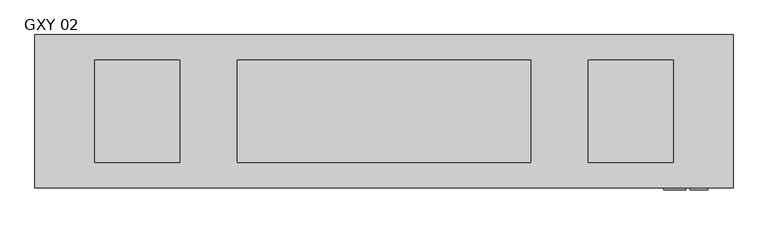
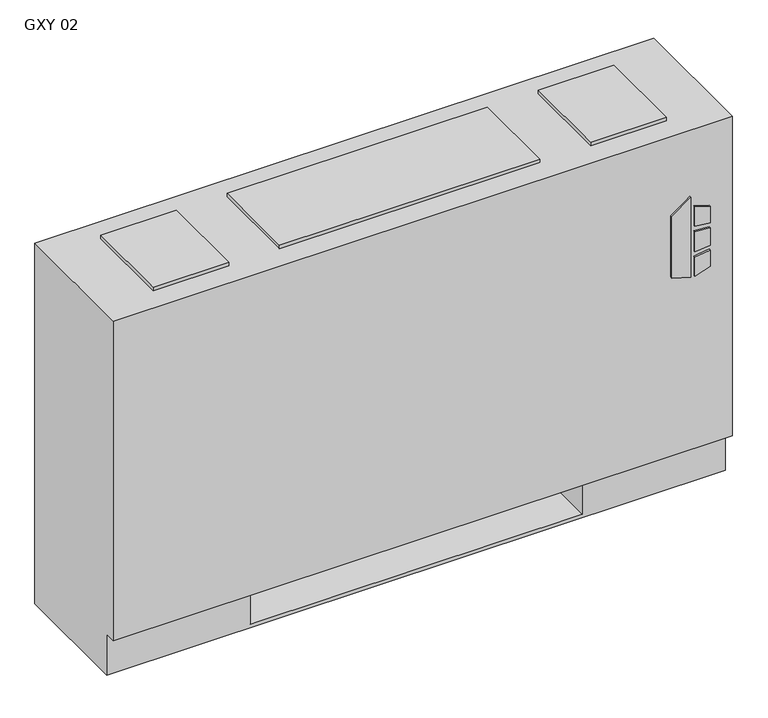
"""IFC4 building model written with IfcOpenShell, lengths in millimetres: proxy geometry, Vertical_Fan_Coil_Unit_-_GXY_-_IEC_-_2-Pipe_TS-FR_RH_2022 : GXY 02."""

from ifc_helpers import new_model, si_unit, point, frame, frame_2d, origin, place, context, project, spatial, polyline, circle_curve, trimmed, segment, composite_curve, outline, extrude, source, transform, mapped, element, save
from ifc_brep_helpers import plane_surface, revolved_surface, advanced_brep


def gxy_02_15e2bdc2(model_context):
    return source(origin(), model_context, "Body", "SolidModel", [
        extrude(outline(polyline([(391.6086829, 569.9868862), (381.6606126, 602.1602728), (523.831537, 602.1602728), (500.8095309, 569.9868862), (391.6086829, 569.9868862)])), frame((0.0, 12.7, 0.0), z_axis=(0.0, 1.0, 0.0), x_axis=(0.0, 0.0, 1.0)), (0.0, 0.0, 1.0), 3.175),
        extrude(outline(polyline([(470.6079683, 608.9186058), (467.4055757, 635.0), (496.6344168, 635.0), (504.6988318, 608.9186058), (470.6079683, 608.9186058)])), frame((0.0, 12.7, 0.0), z_axis=(0.0, 1.0, 0.0), x_axis=(0.0, 0.0, 1.0)), (0.0, 0.0, 1.0), 3.175),
        extrude(outline(polyline([(418.7444414, 635.0), (415.0789404, 608.9186058), (381.6606126, 608.9186058), (390.2948498, 635.0), (418.7444414, 635.0)])), frame((0.0, 12.7, 0.0), z_axis=(0.0, 1.0, 0.0), x_axis=(0.0, 0.0, 1.0)), (0.0, 0.0, 1.0), 3.175),
        extrude(outline(polyline([(458.0596028, 635.0), (460.3414292, 608.9186058), (424.4038806, 608.9186058), (427.1451456, 635.0), (458.0596028, 635.0)])), frame((0.0, 12.7, 0.0), z_axis=(0.0, 1.0, 0.0), x_axis=(0.0, 0.0, 1.0)), (0.0, 0.0, 1.0), 3.175),
        extrude(outline(polyline([(-247.65, 81.534), (-247.65, 223.266), (-127.0, 223.266), (-127.0, 81.534), (-247.65, 81.534)])), frame((0.0, 0.0, 327.025), z_axis=(0.0, 0.0, 1.0), x_axis=(1.0, 0.0, 0.0)), (0.0, 0.0, 1.0), 260.35),
        extrude(outline(polyline([(-152.4, 206.375), (-152.4, 53.975), (-279.4, 53.975), (-279.4, 206.375), (-152.4, 206.375)])), frame((0.0, 0.0, 641.35), z_axis=(0.0, 0.0, 1.0), x_axis=(1.0, 0.0, 0.0)), (0.0, 0.0, 1.0), 6.35),
        extrude(outline(polyline([(584.2, 206.375), (584.2, 53.975), (457.2, 53.975), (457.2, 206.375), (584.2, 206.375)])), frame((0.0, 0.0, 641.35), z_axis=(0.0, 0.0, 1.0), x_axis=(1.0, 0.0, 0.0)), (0.0, 0.0, 1.0), 6.35),
        extrude(outline(composite_curve([segment(trimmed(circle_curve(frame_2d((78.9432, 398.5514)), 7.9375), [point((78.9432, 406.4889))], [point((78.9432, 390.6139))], False, "CARTESIAN"), True, "CONTINUOUS"), segment(trimmed(circle_curve(frame_2d((78.9432, 398.5514)), 7.9375), [point((78.9432, 390.6139))], [point((78.9432, 406.4889))], False, "CARTESIAN"), True, "CONTINUOUS")], self_intersect=False)), frame((431.8, 0.0, 0.0), z_axis=(1.0, 0.0, 0.0), x_axis=(0.0, 1.0, 0.0)), (0.0, 0.0, 1.0), 50.8),
        extrude(outline(composite_curve([segment(trimmed(circle_curve(frame_2d((155.9052, 537.3878)), 7.9375), [point((155.9052, 545.3253))], [point((155.9052, 529.4503))], False, "CARTESIAN"), True, "CONTINUOUS"), segment(trimmed(circle_curve(frame_2d((155.9052, 537.3878)), 7.9375), [point((155.9052, 529.4503))], [point((155.9052, 545.3253))], False, "CARTESIAN"), True, "CONTINUOUS")], self_intersect=False)), frame((431.8, 0.0, 0.0), z_axis=(1.0, 0.0, 0.0), x_axis=(0.0, 1.0, 0.0)), (0.0, 0.0, 1.0), 50.8),
        advanced_brep(
        [(673.1, 244.475, 641.35), (-368.3, 244.475, 641.35), (-368.3, 15.875, 641.35), (673.1, 15.875, 641.35), (-368.3, 244.475, 0.0), (673.1, 244.475, 0.0), (673.1, 34.925, 0.0), (-368.3, 34.925, 0.0), (431.8, 244.475, 73.025), (660.4, 244.475, 73.025), (660.4, 244.475, 628.65), (431.8, 244.475, 628.65), (431.8, 244.475, 418.0400565), (460.375, 244.475, 418.0400565), (460.375, 244.475, 388.4099435), (431.8, 244.475, 388.4099435), (431.8, 244.475, 290.5125), (460.375, 244.475, 290.5125), (460.375, 244.475, 261.9375), (431.8, 244.475, 261.9375), (431.8, 244.475, 119.0625), (460.375, 244.475, 119.0625), (460.375, 244.475, 90.4875), (431.8, 244.475, 90.4875), (-127.0, 244.475, 628.65), (-355.6, 244.475, 628.65), (-355.6, 244.475, 73.025), (-127.0, 244.475, 73.025), (-127.0, 244.475, 90.4875), (-155.575, 244.475, 90.4875), (-155.575, 244.475, 119.0625), (-127.0, 244.475, 119.0625), (-127.0, 244.475, 261.9375), (-155.575, 244.475, 261.9375), (-155.575, 244.475, 290.5125), (-127.0, 244.475, 290.5125), (-127.0, 244.475, 388.4099435), (-155.575, 244.475, 388.4099435), (-155.575, 244.475, 418.0400565), (-127.0, 244.475, 418.0400565), (450.0626, 244.475, 104.775), (438.9374, 244.475, 104.775), (450.0626, 244.475, 403.225), (438.9374, 244.475, 403.225), (450.0626, 244.475, 276.225), (438.9374, 244.475, 276.225), (-134.1374, 244.475, 104.775), (-145.2626, 244.475, 104.775), (-134.1374, 244.475, 276.225), (-145.2626, 244.475, 276.225), (-134.1374, 244.475, 403.225), (-145.2626, 244.475, 403.225), (-368.3, 34.925, 73.025), (-368.3, 15.875, 73.025), (673.1, 15.875, 73.025), (673.1, 34.925, 73.025), (-127.0, 34.925, 73.025), (-127.0, 219.075, 73.025), (431.8, 219.075, 73.025), (431.8, 34.925, 73.025), (431.8, 34.925, 6.35), (-127.0, 34.925, 6.35), (431.8, 41.275, 628.65), (660.4, 41.275, 628.65), (660.4, 41.275, 73.025), (431.8, 41.275, 73.025), (-127.0, 41.275, 628.65), (-127.0, 41.275, 73.025), (-355.6, 41.275, 73.025), (-355.6, 41.275, 628.65), (431.8, 219.075, 73.025), (431.8, 238.125, 90.4875), (431.8, 238.125, 119.0625), (431.8, 238.125, 261.9375), (431.8, 238.125, 290.5125), (431.8, 238.125, 388.4099435), (431.8, 238.125, 418.0400565), (-127.0, 219.075, 73.025), (-127.0, 238.125, 418.0400565), (-127.0, 238.125, 388.4099435), (-127.0, 238.125, 290.5125), (-127.0, 238.125, 261.9375), (-127.0, 238.125, 119.0625), (-127.0, 238.125, 90.4875), (-127.0, 219.075, 6.35), (431.8, 219.075, 6.35), (460.375, 238.125, 90.4875), (460.375, 238.125, 119.0625), (438.9374, 238.125, 104.775), (450.0626, 238.125, 104.775), (460.375, 238.125, 261.9375), (460.375, 238.125, 290.5125), (438.9374, 238.125, 276.225), (450.0626, 238.125, 276.225), (460.375, 238.125, 388.4099435), (460.375, 238.125, 418.0400565), (438.9374, 238.125, 403.225), (450.0626, 238.125, 403.225), (-155.575, 238.125, 119.0625), (-155.575, 238.125, 90.4875), (-145.2626, 238.125, 104.775), (-134.1374, 238.125, 104.775), (-155.575, 238.125, 290.5125), (-155.575, 238.125, 261.9375), (-145.2626, 238.125, 276.225), (-134.1374, 238.125, 276.225), (-155.575, 238.125, 418.0400565), (-155.575, 238.125, 388.4099435), (-145.2626, 238.125, 403.225), (-134.1374, 238.125, 403.225)],
        [
            (0, 1),
            (1, 2),
            (2, 3),
            (3, 0),
            (4, 5),
            (5, 6),
            (6, 7),
            (7, 4),
            (0, 5),
            (4, 1),
            (8, 9),
            (9, 10),
            (10, 11),
            (11, 12),
            (12, 13),
            (13, 14),
            (14, 15),
            (15, 16),
            (16, 17),
            (17, 18),
            (18, 19),
            (19, 20),
            (20, 21),
            (21, 22),
            (22, 23),
            (23, 8),
            (24, 25),
            (25, 26),
            (26, 27),
            (27, 28),
            (28, 29),
            (29, 30),
            (30, 31),
            (31, 32),
            (32, 33),
            (33, 34),
            (34, 35),
            (35, 36),
            (36, 37),
            (37, 38),
            (38, 39),
            (39, 24),
            (40, 41, circle_curve(frame((444.5, 244.475, 104.775), z_axis=(0.0, -1.0, 0.0), x_axis=(-1.0, 0.0, 0.0)), 5.5626)),
            (41, 40, circle_curve(frame((444.5, 244.475, 104.775), z_axis=(0.0, -1.0, 0.0), x_axis=(-1.0, 0.0, 0.0)), 5.5626)),
            (42, 43, circle_curve(frame((444.5, 244.475, 403.225), z_axis=(0.0, -1.0, 0.0), x_axis=(-1.0, 0.0, 0.0)), 5.5626)),
            (43, 42, circle_curve(frame((444.5, 244.475, 403.225), z_axis=(0.0, -1.0, 0.0), x_axis=(-1.0, 0.0, 0.0)), 5.5626)),
            (44, 45, circle_curve(frame((444.5, 244.475, 276.225), z_axis=(0.0, -1.0, 0.0), x_axis=(-1.0, 0.0, 0.0)), 5.5626)),
            (45, 44, circle_curve(frame((444.5, 244.475, 276.225), z_axis=(0.0, -1.0, 0.0), x_axis=(-1.0, 0.0, 0.0)), 5.5626)),
            (46, 47, circle_curve(frame((-139.7, 244.475, 104.775), z_axis=(0.0, -1.0, 0.0), x_axis=(-1.0, 0.0, 0.0)), 5.5626)),
            (47, 46, circle_curve(frame((-139.7, 244.475, 104.775), z_axis=(0.0, -1.0, 0.0), x_axis=(-1.0, 0.0, 0.0)), 5.5626)),
            (48, 49, circle_curve(frame((-139.7, 244.475, 276.225), z_axis=(0.0, -1.0, 0.0), x_axis=(-1.0, 0.0, 0.0)), 5.5626)),
            (49, 48, circle_curve(frame((-139.7, 244.475, 276.225), z_axis=(0.0, -1.0, 0.0), x_axis=(-1.0, 0.0, 0.0)), 5.5626)),
            (50, 51, circle_curve(frame((-139.7, 244.475, 403.225), z_axis=(0.0, -1.0, 0.0), x_axis=(-1.0, 0.0, 0.0)), 5.5626)),
            (51, 50, circle_curve(frame((-139.7, 244.475, 403.225), z_axis=(0.0, -1.0, 0.0), x_axis=(-1.0, 0.0, 0.0)), 5.5626)),
            (7, 52),
            (52, 53),
            (53, 2),
            (53, 54),
            (54, 3),
            (54, 55),
            (55, 6),
            (52, 56),
            (56, 57),
            (57, 58),
            (58, 59),
            (59, 55),
            (59, 60),
            (60, 61),
            (61, 56),
            (62, 63),
            (63, 64),
            (64, 65),
            (65, 62),
            (66, 67),
            (67, 68),
            (68, 69),
            (69, 66),
            (65, 70),
            (70, 8),
            (23, 71),
            (71, 72),
            (72, 20),
            (19, 73),
            (73, 74),
            (74, 16),
            (15, 75),
            (75, 76),
            (76, 12),
            (11, 62),
            (64, 9),
            (63, 10),
            (69, 25),
            (24, 66),
            (68, 26),
            (67, 77),
            (77, 27),
            (39, 78),
            (78, 79),
            (79, 36),
            (35, 80),
            (80, 81),
            (81, 32),
            (31, 82),
            (82, 83),
            (83, 28),
            (57, 84),
            (84, 85),
            (85, 58),
            (85, 60),
            (84, 61),
            (71, 86),
            (86, 87),
            (87, 72),
            (88, 89, circle_curve(frame((444.5, 238.125, 104.775), z_axis=(0.0, 1.0, 0.0), x_axis=(-1.0, 0.0, 0.0)), 5.5626)),
            (89, 88, circle_curve(frame((444.5, 238.125, 104.775), z_axis=(0.0, 1.0, 0.0), x_axis=(-1.0, 0.0, 0.0)), 5.5626)),
            (73, 90),
            (90, 91),
            (91, 74),
            (92, 93, circle_curve(frame((444.5, 238.125, 276.225), z_axis=(0.0, 1.0, 0.0), x_axis=(-1.0, 0.0, 0.0)), 5.5626)),
            (93, 92, circle_curve(frame((444.5, 238.125, 276.225), z_axis=(0.0, 1.0, 0.0), x_axis=(-1.0, 0.0, 0.0)), 5.5626)),
            (75, 94),
            (94, 95),
            (95, 76),
            (96, 97, circle_curve(frame((444.5, 238.125, 403.225), z_axis=(0.0, 1.0, 0.0), x_axis=(-1.0, 0.0, 0.0)), 5.5626)),
            (97, 96, circle_curve(frame((444.5, 238.125, 403.225), z_axis=(0.0, 1.0, 0.0), x_axis=(-1.0, 0.0, 0.0)), 5.5626)),
            (98, 99),
            (99, 83),
            (82, 98),
            (100, 101, circle_curve(frame((-139.7, 238.125, 104.775), z_axis=(0.0, 1.0, 0.0), x_axis=(-1.0, 0.0, 0.0)), 5.5626)),
            (101, 100, circle_curve(frame((-139.7, 238.125, 104.775), z_axis=(0.0, 1.0, 0.0), x_axis=(-1.0, 0.0, 0.0)), 5.5626)),
            (102, 103),
            (103, 81),
            (80, 102),
            (104, 105, circle_curve(frame((-139.7, 238.125, 276.225), z_axis=(0.0, 1.0, 0.0), x_axis=(-1.0, 0.0, 0.0)), 5.5626)),
            (105, 104, circle_curve(frame((-139.7, 238.125, 276.225), z_axis=(0.0, 1.0, 0.0), x_axis=(-1.0, 0.0, 0.0)), 5.5626)),
            (106, 107),
            (107, 79),
            (78, 106),
            (108, 109, circle_curve(frame((-139.7, 238.125, 403.225), z_axis=(0.0, 1.0, 0.0), x_axis=(-1.0, 0.0, 0.0)), 5.5626)),
            (109, 108, circle_curve(frame((-139.7, 238.125, 403.225), z_axis=(0.0, 1.0, 0.0), x_axis=(-1.0, 0.0, 0.0)), 5.5626)),
            (87, 21),
            (86, 22),
            (91, 17),
            (90, 18),
            (95, 13),
            (94, 14),
            (30, 98),
            (99, 29),
            (34, 102),
            (103, 33),
            (38, 106),
            (107, 37),
            (88, 41),
            (40, 89),
            (96, 43),
            (42, 97),
            (92, 45),
            (44, 93),
            (100, 47),
            (46, 101),
            (104, 49),
            (48, 105),
            (108, 51),
            (50, 109),
        ],
        [
            plane_surface(frame((-368.3, 244.475, 641.35), z_axis=(0.0, 0.0, 1.0), x_axis=(-1.0, 0.0, 0.0))),
            plane_surface(frame((-368.3, 244.475, 0.0), z_axis=(0.0, 0.0, -1.0), x_axis=(1.0, 0.0, 0.0))),
            plane_surface(frame((673.1, 244.475, 641.35), z_axis=(0.0, 1.0, 0.0), x_axis=(0.0, 0.0, -1.0))),
            plane_surface(frame((-368.3, 244.475, 641.35), z_axis=(-1.0, 0.0, 0.0), x_axis=(0.0, 0.0, -1.0))),
            plane_surface(frame((-368.3, 15.875, 641.35), z_axis=(0.0, -1.0, 0.0), x_axis=(0.0, 0.0, -1.0))),
            plane_surface(frame((673.1, 15.875, 641.35), z_axis=(1.0, 0.0, 0.0), x_axis=(0.0, 0.0, -1.0))),
            plane_surface(frame((-368.3, 15.875, 73.025), z_axis=(0.0, 0.0, -1.0), x_axis=(1.0, 0.0, 0.0))),
            plane_surface(frame((-368.3, 34.925, 73.025), z_axis=(0.0, -1.0, 0.0), x_axis=(1.0, 0.0, 0.0))),
            plane_surface(frame((431.8, 41.275, 628.65), z_axis=(0.0, 1.0, 0.0), x_axis=(0.0, 0.0, -1.0))),
            plane_surface(frame((431.8, 41.275, 628.65), z_axis=(1.0, 0.0, 0.0), x_axis=(0.0, 1.0, 0.0))),
            plane_surface(frame((431.8, 41.275, 73.025), z_axis=(0.0, 0.0, 1.0), x_axis=(0.0, 1.0, 0.0))),
            plane_surface(frame((660.4, 41.275, 73.025), z_axis=(-1.0, 0.0, 0.0), x_axis=(0.0, 1.0, 0.0))),
            plane_surface(frame((660.4, 41.275, 628.65), z_axis=(0.0, 0.0, -1.0), x_axis=(0.0, 1.0, 0.0))),
            plane_surface(frame((-127.0, 41.275, 628.65), z_axis=(0.0, 0.0, -1.0), x_axis=(0.0, 1.0, 0.0))),
            plane_surface(frame((-355.6, 41.275, 628.65), z_axis=(1.0, 0.0, 0.0), x_axis=(0.0, 1.0, 0.0))),
            plane_surface(frame((-355.6, 41.275, 73.025), z_axis=(0.0, 0.0, 1.0), x_axis=(0.0, 1.0, 0.0))),
            plane_surface(frame((-127.0, 41.275, 73.025), z_axis=(-1.0, 0.0, 0.0), x_axis=(0.0, 1.0, 0.0))),
            plane_surface(frame((431.8, 219.075, 73.025), z_axis=(0.0, -1.0, 0.0), x_axis=(0.0, 0.0, -1.0))),
            plane_surface(frame((431.8, 219.075, 73.025), z_axis=(-1.0, 0.0, 0.0), x_axis=(0.0, -1.0, 0.0))),
            plane_surface(frame((431.8, 219.075, 6.35), z_axis=(0.0, 0.0, 1.0), x_axis=(0.0, -1.0, 0.0))),
            plane_surface(frame((-127.0, 219.075, 6.35), z_axis=(1.0, 0.0, 0.0), x_axis=(0.0, -1.0, 0.0))),
            plane_surface(frame((460.375, 238.125, 119.0625), z_axis=(0.0, -1.0, 0.0), x_axis=(-1.0, 0.0, 0.0))),
            plane_surface(frame((431.8, 244.475, 119.0625), z_axis=(0.0, 0.0, 1.0), x_axis=(0.0, -1.0, 0.0))),
            plane_surface(frame((460.375, 244.475, 119.0625), z_axis=(1.0, 0.0, 0.0), x_axis=(0.0, -1.0, 0.0))),
            plane_surface(frame((460.375, 244.475, 90.4875), z_axis=(0.0, 0.0, -1.0), x_axis=(0.0, -1.0, 0.0))),
            plane_surface(frame((431.8, 244.475, 290.5125), z_axis=(0.0, 0.0, 1.0), x_axis=(0.0, -1.0, 0.0))),
            plane_surface(frame((460.375, 244.475, 290.5125), z_axis=(1.0, 0.0, 0.0), x_axis=(0.0, -1.0, 0.0))),
            plane_surface(frame((460.375, 244.475, 261.9375), z_axis=(0.0, 0.0, -1.0), x_axis=(0.0, -1.0, 0.0))),
            plane_surface(frame((431.8, 244.475, 418.0400565), z_axis=(0.0, 0.0, 1.0), x_axis=(0.0, -1.0, 0.0))),
            plane_surface(frame((460.375, 244.475, 418.0400565), z_axis=(1.0, 0.0, 0.0), x_axis=(0.0, -1.0, 0.0))),
            plane_surface(frame((460.375, 244.475, 388.4099435), z_axis=(0.0, 0.0, -1.0), x_axis=(0.0, -1.0, 0.0))),
            plane_surface(frame((-155.575, 244.475, 119.0625), z_axis=(0.0, 0.0, 1.0), x_axis=(0.0, -1.0, 0.0))),
            plane_surface(frame((-127.0, 244.475, 90.4875), z_axis=(0.0, 0.0, -1.0), x_axis=(0.0, -1.0, 0.0))),
            plane_surface(frame((-155.575, 244.475, 90.4875), z_axis=(-1.0, 0.0, 0.0), x_axis=(0.0, -1.0, 0.0))),
            plane_surface(frame((-155.575, 244.475, 290.5125), z_axis=(0.0, 0.0, 1.0), x_axis=(0.0, -1.0, 0.0))),
            plane_surface(frame((-127.0, 244.475, 261.9375), z_axis=(0.0, 0.0, -1.0), x_axis=(0.0, -1.0, 0.0))),
            plane_surface(frame((-155.575, 244.475, 261.9375), z_axis=(-1.0, 0.0, 0.0), x_axis=(0.0, -1.0, 0.0))),
            plane_surface(frame((-155.575, 244.475, 418.0400565), z_axis=(0.0, 0.0, 1.0), x_axis=(0.0, -1.0, 0.0))),
            plane_surface(frame((-127.0, 244.475, 388.4099435), z_axis=(0.0, 0.0, -1.0), x_axis=(0.0, -1.0, 0.0))),
            plane_surface(frame((-155.575, 244.475, 388.4099435), z_axis=(-1.0, 0.0, 0.0), x_axis=(0.0, -1.0, 0.0))),
            revolved_surface(polyline([(438.9374, 238.125, 104.775), (438.9374, 244.475, 104.775)]), (444.5, 244.475, 104.775), (0.0, -1.0, 0.0)),
            revolved_surface(polyline([(438.9374, 238.125, 403.225), (438.9374, 244.475, 403.225)]), (444.5, 244.475, 403.225), (0.0, -1.0, 0.0)),
            revolved_surface(polyline([(438.9374, 238.125, 276.225), (438.9374, 244.475, 276.225)]), (444.5, 244.475, 276.225), (0.0, -1.0, 0.0)),
            revolved_surface(polyline([(-145.2626, 238.125, 104.775), (-145.2626, 244.475, 104.775)]), (-139.7, 244.475, 104.775), (0.0, -1.0, 0.0)),
            revolved_surface(polyline([(-145.2626, 238.125, 276.225), (-145.2626, 244.475, 276.225)]), (-139.7, 244.475, 276.225), (0.0, -1.0, 0.0)),
            revolved_surface(polyline([(-145.2626, 238.125, 403.225), (-145.2626, 244.475, 403.225)]), (-139.7, 244.475, 403.225), (0.0, -1.0, 0.0)),
        ],
        [
            (0, [[1, 2, 3, 4]]),
            (1, [[5, 6, 7, 8]]),
            (2, [[-1, 9, -5, 10], [11, 12, 13, 14, 15, 16, 17, 18, 19, 20, 21, 22, 23, 24, 25, 26], [27, 28, 29, 30, 31, 32, 33, 34, 35, 36, 37, 38, 39, 40, 41, 42], [43, 44], [45, 46], [47, 48], [49, 50], [51, 52], [53, 54]]),
            (3, [[-2, -10, -8, 55, 56, 57]]),
            (4, [[-3, -57, 58, 59]]),
            (5, [[-4, -59, 60, 61, -6, -9]]),
            (6, [[-56, 62, 63, 64, 65, 66, -60, -58]]),
            (7, [[-7, -61, -66, 67, 68, 69, -62, -55]]),
            (8, [[70, 71, 72, 73]]),
            (8, [[74, 75, 76, 77]]),
            (9, [[-73, 78, 79, -26, 80, 81, 82, -22, 83, 84, 85, -18, 86, 87, 88, -14, 89]]),
            (10, [[-72, 90, -11, -79, -78]]),
            (11, [[-71, 91, -12, -90]]),
            (12, [[-70, -89, -13, -91]]),
            (13, [[-77, 92, -27, 93]]),
            (14, [[-76, 94, -28, -92]]),
            (15, [[-75, 95, 96, -29, -94]]),
            (16, [[-74, -93, -42, 97, 98, 99, -38, 100, 101, 102, -34, 103, 104, 105, -30, -96, -95]]),
            (17, [[-64, 106, 107, 108]]),
            (18, [[-108, 109, -67, -65]]),
            (19, [[-107, 110, -68, -109]]),
            (20, [[-106, -63, -69, -110]]),
            (21, [[111, 112, 113, -81], [114, 115]]),
            (21, [[116, 117, 118, -84], [119, 120]]),
            (21, [[121, 122, 123, -87], [124, 125]]),
            (21, [[126, 127, -104, 128], [129, 130]]),
            (21, [[131, 132, -101, 133], [134, 135]]),
            (21, [[136, 137, -98, 138], [139, 140]]),
            (22, [[-113, 141, -23, -82]]),
            (23, [[-112, 142, -24, -141]]),
            (24, [[-111, -80, -25, -142]]),
            (25, [[-118, 143, -19, -85]]),
            (26, [[-117, 144, -20, -143]]),
            (27, [[-116, -83, -21, -144]]),
            (28, [[-123, 145, -15, -88]]),
            (29, [[-122, 146, -16, -145]]),
            (30, [[-121, -86, -17, -146]]),
            (31, [[-128, -103, -33, 147]]),
            (32, [[-127, 148, -31, -105]]),
            (33, [[-126, -147, -32, -148]]),
            (34, [[-133, -100, -37, 149]]),
            (35, [[-132, 150, -35, -102]]),
            (36, [[-131, -149, -36, -150]]),
            (37, [[-138, -97, -41, 151]]),
            (38, [[-137, 152, -39, -99]]),
            (39, [[-136, -151, -40, -152]]),
            (40, [[153, -43, 154, -114]]),
            (40, [[-153, -115, -154, -44]]),
            (41, [[155, -45, 156, -124]]),
            (41, [[-155, -125, -156, -46]]),
            (42, [[157, -47, 158, -119]]),
            (42, [[-157, -120, -158, -48]]),
            (43, [[159, -49, 160, -129]]),
            (43, [[-159, -130, -160, -50]]),
            (44, [[161, -51, 162, -134]]),
            (44, [[-161, -135, -162, -52]]),
            (45, [[163, -53, 164, -139]]),
            (45, [[-163, -140, -164, -54]]),
        ],
    ),
        extrude(outline(polyline([(371.475, 206.375), (371.475, 53.975), (-66.675, 53.975), (-66.675, 206.375), (371.475, 206.375)])), frame((0.0, 0.0, 641.35), z_axis=(0.0, 0.0, 1.0), x_axis=(1.0, 0.0, 0.0)), (0.0, 0.0, 1.0), 6.35),
    ])


if __name__ == "__main__":
    model = new_model("IFC4")
    model_context = context("Model", 3, world=origin())
    ifc_project = project(units=[si_unit("LENGTHUNIT", "METRE", prefix="MILLI")], contexts=[model_context])
    site = spatial("IfcSite", under=ifc_project)
    building = spatial("IfcBuilding", under=site)
    placement = place(None, origin())
    gxy_02_shape = gxy_02_15e2bdc2(model_context)
    element("IfcBuildingElementProxy", 1, Name="Vertical_Fan_Coil_Unit_-_GXY_-_IEC_-_2-Pipe_TS-FR_RH_2022 : GXY 02", ObjectType="Vertical_Fan_Coil_Unit_-_GXY_-_IEC_-_2-Pipe_TS-FR_RH_2022 : GXY 02", at=placement, inside=building, context=model_context, shape_type="MappedRepresentation", body=[
        mapped(gxy_02_shape, transform((0.0, 0.0, 0.0), x_axis=(1.0, 0.0, 0.0), y_axis=(0.0, 1.0, 0.0), z_axis=(0.0, 0.0, 1.0))),
    ])
    save(model, "model.ifc")
